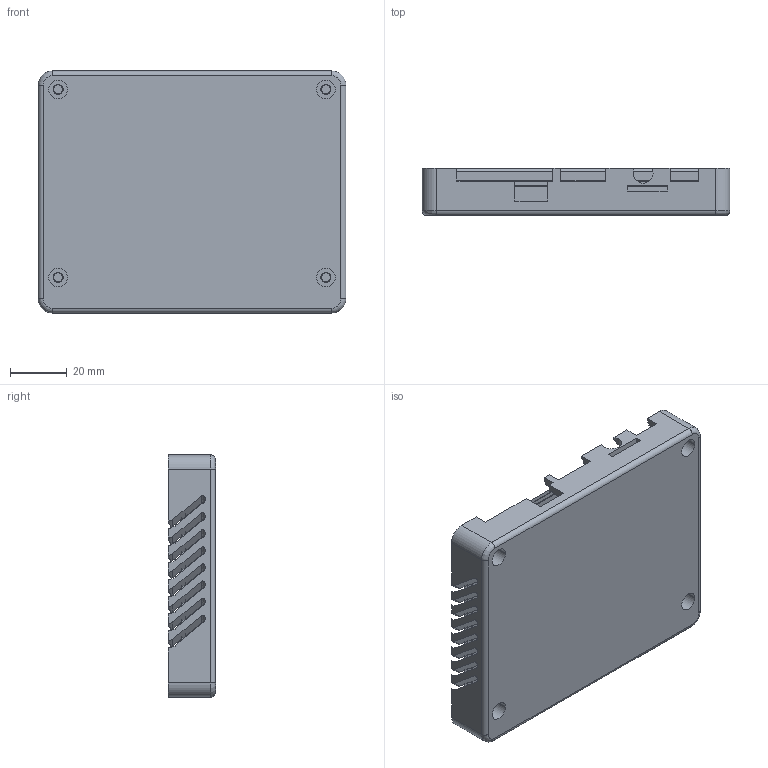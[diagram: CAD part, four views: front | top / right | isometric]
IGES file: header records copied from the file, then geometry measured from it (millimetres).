
Start section:  PTC IGES file: 64001219_base_cc6_sbc_v1.igs
Global section: file name: 64001219_base_cc6_sbc_v1.igs; native system: Creo Parametric by Parametric Technology Corporation; preprocessor: 2014090; author: mlarsen; organization: Unknown; date: 20150204.122906; units: millimetre
Bounding box: 108 x 16.5 x 85 mm (x, y, z)
Volume: 34698.4 mm3; surface area: 76554.4 mm2
Topology: 1 solids, 2 shells, 415 faces, 1641 edges, 1668 vertices
Faces by surface type: revolution 227, bspline 188
